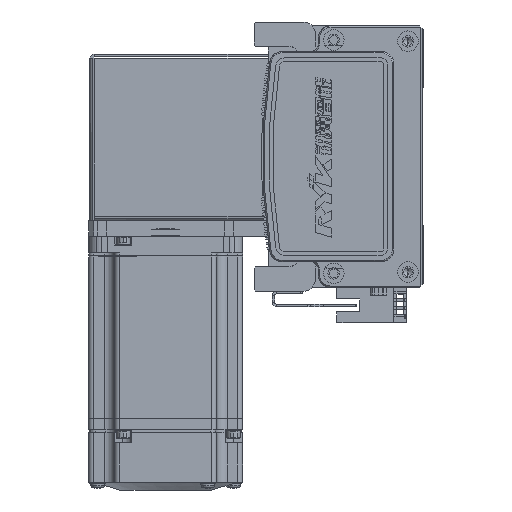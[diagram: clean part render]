
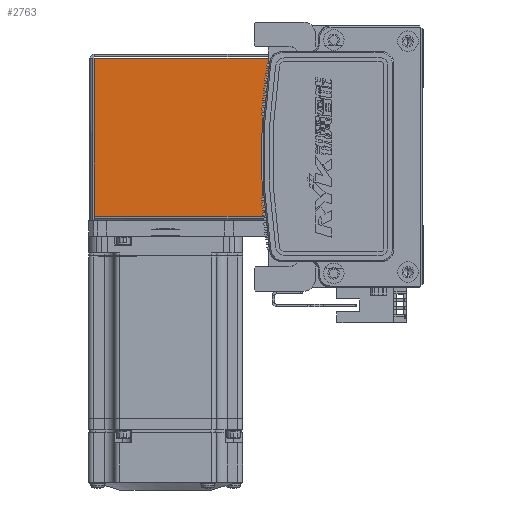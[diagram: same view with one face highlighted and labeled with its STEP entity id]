
A CAD part, left-side view. The second image highlights one B-rep face of the part: STEP entity #2763.
In plain terms, the highlighted planar face has unit normal (-1, 0, 0) as drawn and (0, 0, 1) by its records, which use the part's own axes.
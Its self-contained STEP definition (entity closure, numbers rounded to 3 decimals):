
#823 = DIRECTION ( 'NONE',  ( -1., 0., 0. ) ) ;
#1120 = VECTOR ( 'NONE', #823, 1000. ) ;
#2763 = ADVANCED_FACE ( 'NONE', ( #30303 ), #68404, .F. ) ;
#3318 = CARTESIAN_POINT ( 'NONE',  ( -30.793, 0., 35. ) ) ;
#3564 = DIRECTION ( 'NONE',  ( 0., 1., 0. ) ) ;
#3607 = LINE ( 'NONE', #57117, #38856 ) ;
#4735 = EDGE_LOOP ( 'NONE', ( #53846, #36920, #68088, #23458 ) ) ;
#6094 = CARTESIAN_POINT ( 'NONE',  ( 0., 68.5, 35. ) ) ;
#8301 = DIRECTION ( 'NONE',  ( -1., 0., 0. ) ) ;
#8312 = VERTEX_POINT ( 'NONE', #60540 ) ;
#12538 = EDGE_CURVE ( 'NONE', #31821, #53638, #31126, .T. ) ;
#13307 = DIRECTION ( 'NONE',  ( -1., 0., 0. ) ) ;
#14854 = CARTESIAN_POINT ( 'NONE',  ( -30.793, 0.737, 35. ) ) ;
#23458 = ORIENTED_EDGE ( 'NONE', *, *, #64684, .F. ) ;
#24157 = CARTESIAN_POINT ( 'NONE',  ( 0., 0., 35. ) ) ;
#28102 = AXIS2_PLACEMENT_3D ( 'NONE', #24157, #62907, #8301 ) ;
#30303 = FACE_OUTER_BOUND ( 'NONE', #4735, .T. ) ;
#31126 = LINE ( 'NONE', #6094, #1120 ) ;
#31821 = VERTEX_POINT ( 'NONE', #55854 ) ;
#34157 = LINE ( 'NONE', #3318, #44444 ) ;
#36920 = ORIENTED_EDGE ( 'NONE', *, *, #12538, .T. ) ;
#38856 = VECTOR ( 'NONE', #62880, 1000. ) ;
#39178 = EDGE_CURVE ( 'NONE', #8312, #31821, #3607, .T. ) ;
#40892 = CARTESIAN_POINT ( 'NONE',  ( -32.5, 0.737, 35. ) ) ;
#44444 = VECTOR ( 'NONE', #3564, 1000. ) ;
#46441 = VECTOR ( 'NONE', #13307, 1000. ) ;
#49881 = LINE ( 'NONE', #40892, #46441 ) ;
#53638 = VERTEX_POINT ( 'NONE', #63802 ) ;
#53846 = ORIENTED_EDGE ( 'NONE', *, *, #39178, .T. ) ;
#55854 = CARTESIAN_POINT ( 'NONE',  ( 30.763, 68.5, 35. ) ) ;
#57117 = CARTESIAN_POINT ( 'NONE',  ( 30.763, 0.737, 35. ) ) ;
#60540 = CARTESIAN_POINT ( 'NONE',  ( 30.763, 0.737, 35. ) ) ;
#62880 = DIRECTION ( 'NONE',  ( 0., 1., 0. ) ) ;
#62907 = DIRECTION ( 'NONE',  ( 0., 0., -1. ) ) ;
#63802 = CARTESIAN_POINT ( 'NONE',  ( -30.793, 68.5, 35. ) ) ;
#64322 = VERTEX_POINT ( 'NONE', #14854 ) ;
#64684 = EDGE_CURVE ( 'NONE', #8312, #64322, #49881, .T. ) ;
#68088 = ORIENTED_EDGE ( 'NONE', *, *, #70810, .F. ) ;
#68404 = PLANE ( 'NONE',  #28102 ) ;
#70810 = EDGE_CURVE ( 'NONE', #64322, #53638, #34157, .T. ) ;
